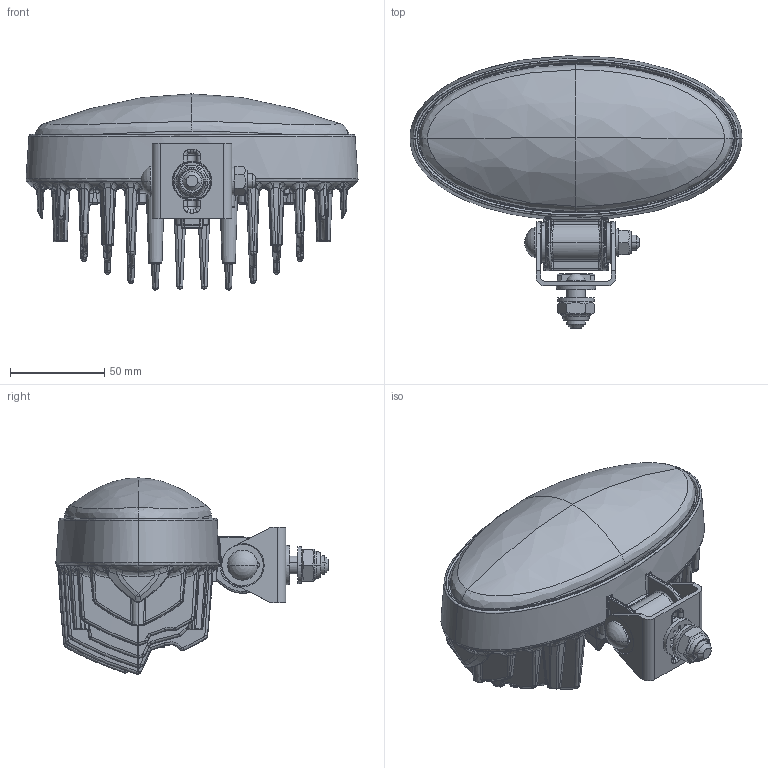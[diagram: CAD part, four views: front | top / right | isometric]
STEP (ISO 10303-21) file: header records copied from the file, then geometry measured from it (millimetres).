
FILE_DESCRIPTION(('CATIA V5 STEP Exchange','CAx-IF Rec.Pracs.--- Model Styling and Organization---1.5--- 2016-08-15','CAx-IF Rec.Pracs.---Supplemental Geometry---1.0---2011-11-01','CAx-IF Rec.Pracs.--- Composite Materials ---1.1---2010-07-15'),'2;1');
FILE_NAME('E:\tmp\ddx\2011218\HELLA_3D_data_Oval_90_LED_Gen_2_1GB-996-486-00.stp','2022-01-18T07:37:55+00:00',('none'),('none'),'CATIA Version 5-6 Release 2020 SP3 HF9','CATIA V5 STEP AP214 Edition 3 v2','none');
FILE_SCHEMA(('AUTOMOTIVE_DESIGN { 1 0 10303 214 3 1 1 1 }'));
Products named in the file (1): 10001881219_D10_001
Bounding box: 176.53 x 144.75 x 104.36 mm (x, y, z)
Volume: 631187.4 mm3; surface area: 119217.3 mm2
Topology: 2 solids, 4 shells, 2767 faces, 7476 edges, 4335 vertices
Faces by surface type: bspline 1348, plane 677, cylinder 253, extrusion 177, torus 142, cone 120, sphere 50
Entity records: 211484 total; most frequent: CARTESIAN_POINT 157561, ORIENTED_EDGE 14712, EDGE_CURVE 7356, DIRECTION 5043, B_SPLINE_CURVE_WITH_KNOTS 4630, VERTEX_POINT 4335, EDGE_LOOP 2833, ADVANCED_FACE 2767
